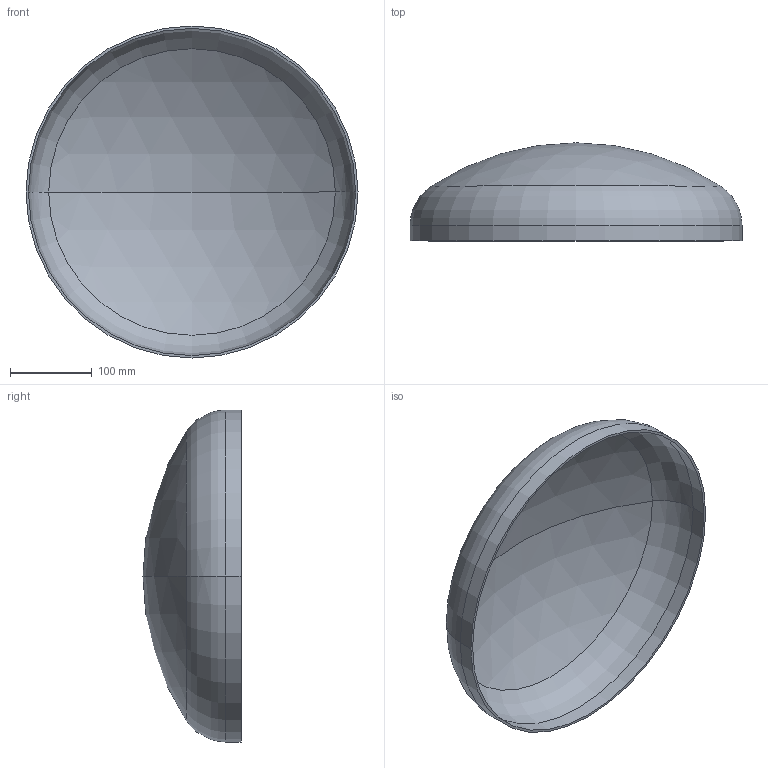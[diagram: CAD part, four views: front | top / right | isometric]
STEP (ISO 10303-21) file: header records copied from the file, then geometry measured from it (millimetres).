
FILE_DESCRIPTION (( 'STEP AP203' ), '1' );
FILE_NAME ('3D_R365_406x3_173371480.STEP', '2024-07-16T06:50:12', ( '' ), ( '' ), 'SwSTEP 2.0', 'SolidWorks 2024', '' );
FILE_SCHEMA (( 'CONFIG_CONTROL_DESIGN' ));
Length unit declared in the file: millimetre
Products named in the file (1): 3D_R365_406x3_173371480
Bounding box: 406.4 x 120 x 406.4 mm (x, y, z)
Volume: 592632.3 mm3; surface area: 398908.8 mm2
Topology: 1 solids, 1 shells, 13 faces, 24 edges, 14 vertices
Faces by surface type: sphere 4, torus 4, cylinder 4, plane 1
Entity records: 407 total; most frequent: DIRECTION 72, CARTESIAN_POINT 52, ORIENTED_EDGE 48, AXIS2_PLACEMENT_3D 34, EDGE_CURVE 24, CIRCLE 20, VERTEX_POINT 14, EDGE_LOOP 14
